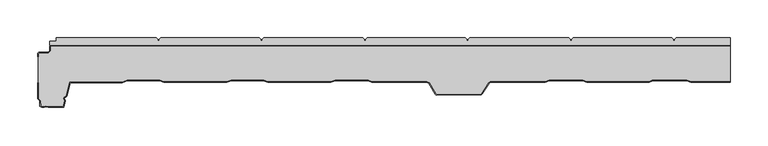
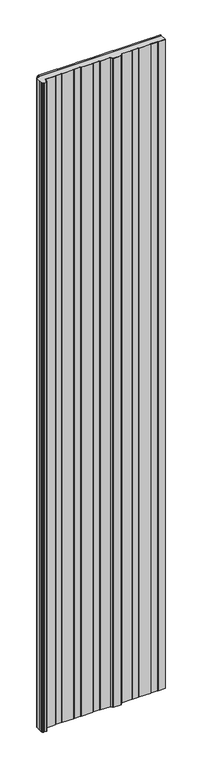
"""IFC4 building model written with IfcOpenShell, lengths in millimetres: plate geometry, Paneles-Sándwich-Madera_PAPUR-AC_Curtain-Panel : PAPUR AC 50/10."""

from ifc_helpers import new_model, si_unit, origin, origin_with_axes, place, context, project, spatial, polyline, outline, extrude, source, transform, mapped, element, save


def plate_9c762072(model_context):
    return source(origin(), model_context, "Body", "SweptSolid", [
        extrude(outline(polyline([(-304.8923076, 8.0070037), (-302.9037044, 10.0073737), (-172.8159298, 10.0073737), (-170.8198896, 8.0070037), (-170.8198896, 6.0196231), (-168.8151898, 6.0196231), (-168.8151898, 8.0070037), (-166.8234794, 10.0073737), (-36.0114048, 10.0073737), (-34.028354, 8.0070037), (-34.028354, 6.0196231), (-32.0236542, 6.0196231), (-32.0236542, 8.0070037), (-30.027614, 10.0073737), (99.3209865, 10.0073737), (101.3083671, 8.0070037), (101.3083671, 6.0196231), (103.3044073, 6.0196231), (103.3044073, 8.0070037), (105.3047773, 10.0073737), (236.7230247, 10.0073737), (238.7147351, 8.0070037), (238.7147351, 6.0196231), (240.7107753, 6.0196231), (240.7107753, 8.0070037), (242.7111453, 10.0073737), (372.9386962, 10.0073737), (374.9390662, 8.0070037), (374.9390662, 6.0196231), (376.9351064, 6.0196231), (376.9351064, 8.0070037), (378.9311466, 10.0073737), (450.0, 10.0073737), (450.0, 0.0), (-449.601171, 0.0), (-449.601171, 5.5984381), (-441.266524, 5.5984381), (-441.266524, 10.0073737), (-308.8887178, 10.0073737), (-306.8926776, 8.0070037), (-306.8926776, 6.0196231), (-304.8923076, 6.0196231), (-304.8923076, 8.0070037)])), origin_with_axes(), (0.0, 0.0, 1.0), 5000.0),
        extrude(outline(polyline([(-465.6618356, -10.4348305), (-464.1420739, -9.1055803), (-452.1008857, -8.9930054), (-449.9316533, -7.001295), (-449.9922705, -1.1690474), (-448.9531173, 0.0), (450.0, 0.0), (450.0, -0.8), (-448.5938644, -0.8), (-449.1891031, -1.4696435), (-449.1279914, -7.3494661), (-451.7861577, -9.7900979), (-463.8383716, -9.9027759), (-464.8585217, -10.795044), (-464.8185043, -15.1889566), (-465.6185375, -15.1889566), (-465.6618356, -10.4348305)])), origin_with_axes(), (0.0, 0.0, 1.0), 5000.0),
        extrude(outline(polyline([(260.2961713, -49.080732), (255.0700964, -46.8595419), (210.914743, -46.8595419), (205.4418692, -49.080732), (132.9522706, -49.080732), (131.4498282, -50.0159699), (122.1450768, -64.1874223), (121.0669553, -65.2871929), (61.5970809, -65.7721311), (59.7092859, -64.4602001), (51.1406014, -50.2974073), (48.4301433, -49.080732), (-24.2066687, -49.080732), (-28.6057508, -46.8595419), (-72.432039, -46.8595419), (-78.2426376, -49.080732), (-161.7689096, -49.080732), (-167.3283795, -46.8595419), (-209.6738743, -46.8595419), (-215.8568362, -49.080732), (-299.3138314, -49.080732), (-304.2931073, -46.8595419), (-347.2231259, -46.8595419), (-353.6788654, -49.5570106), (-422.9773976, -49.6955644), (-427.4977143, -67.4131272), (-428.6234636, -68.5994938), (-430.0999272, -69.3355607), (-430.4116732, -70.262139), (-429.4850948, -72.4227118), (-429.4850948, -73.6653659), (-431.6372836, -82.0045707), (-452.0433799, -82.0045707), (-454.8231149, -81.0779924), (-457.2997634, -82.0045707), (-460.7029903, -82.0045707), (-462.8635631, -80.4025428), (-462.9285102, -73.2756835), (-465.6476279, -70.6041937), (-465.6, -49.57), (-464.7999979, -49.57), (-464.8468678, -70.2694216), (-462.1315619, -72.9371664), (-462.0672248, -79.9970874), (-460.438754, -81.2045707), (-457.4445144, -81.2045707), (-454.8384953, -80.2295916), (-451.9135578, -81.2045707), (-432.2570317, -81.2045707), (-430.2850948, -73.5637976), (-430.2850948, -72.5870188), (-431.2673442, -70.2966335), (-430.7527365, -68.767105), (-429.1066634, -67.946482), (-428.2213945, -67.0135448), (-423.5992353, -48.896806), (-353.8400488, -48.7573313), (-347.3835418, -46.0595419), (-304.1227627, -46.0595419), (-299.1434867, -48.280732), (-215.9961744, -48.280732), (-209.8132126, -46.0595419), (-167.1744807, -46.0595419), (-161.6150108, -48.280732), (-78.390332, -48.280732), (-72.5797335, -46.0595419), (-28.4152363, -46.0595419), (-24.0161542, -48.280732), (48.6014618, -48.280732), (51.6958915, -49.6697651), (60.3056326, -63.9004185), (61.8448216, -64.9700843), (120.728235, -64.4899283), (121.5191698, -63.6831114), (130.8776723, -49.4297941), (132.7236193, -48.280732), (205.2857129, -48.280732), (210.7585866, -46.0595419), (255.2330509, -46.0595419), (260.4591258, -48.280732), (342.801635, -48.280732), (347.2274638, -46.0595419), (392.6117194, -46.0595419), (398.2231469, -48.280732), (450.0, -48.280732), (450.0, -49.080732), (398.0705727, -49.080732), (392.4591451, -46.8595419), (347.4169495, -46.8595419), (342.9911208, -49.080732), (260.2961713, -49.080732)])), origin_with_axes(), (0.0, 0.0, 1.0), 5000.0),
        extrude(outline(polyline([(398.2211683, -48.2761613), (392.6097408, -46.0549712), (347.2254852, -46.0549712), (342.7996564, -48.2761613), (260.4571472, -48.2761613), (255.2310723, -46.0549712), (210.756608, -46.0549712), (205.2837343, -48.2761613), (132.7216407, -48.2761613), (130.8756937, -49.4252234), (121.5171912, -63.6785406), (120.7262564, -64.4853576), (61.842843, -64.9655136), (60.303654, -63.8958478), (51.6939129, -49.6651944), (48.5994832, -48.2761613), (-24.0181328, -48.2761613), (-28.4172149, -46.0549712), (-72.5817121, -46.0549712), (-78.3923106, -48.2761613), (-161.6169894, -48.2761613), (-167.1764593, -46.0549712), (-209.8151912, -46.0549712), (-215.998153, -48.2761613), (-299.1454653, -48.2761613), (-304.1247413, -46.0549712), (-347.3855204, -46.0549712), (-353.8420274, -48.7527605), (-423.6012139, -48.8922353), (-428.2233731, -67.0089741), (-429.108642, -67.9419113), (-430.7547151, -68.7625342), (-431.2693228, -70.2920628), (-430.2870734, -72.5824481), (-430.2870734, -73.5592269), (-432.2590104, -81.2), (-451.9155364, -81.2), (-454.8404739, -80.2250208), (-457.446493, -81.2), (-460.4407326, -81.2), (-462.0692034, -79.9925166), (-462.1335405, -72.9325956), (-464.8488464, -70.2648508), (-464.8019766, -50.0), (-464.8432618, -10.795044), (-463.8231116, -9.9027759), (-451.7708977, -9.7900979), (-449.1127314, -7.3494661), (-449.1738431, -1.4696435), (-448.5786045, -0.8), (450.0, -0.8), (450.0, -48.2761613), (398.2211683, -48.2761613)])), origin_with_axes(), (0.0, 0.0, 1.0), 5000.0),
    ])


if __name__ == "__main__":
    model = new_model("IFC4")
    model_context = context("Model", 3, world=origin())
    ifc_project = project(units=[si_unit("LENGTHUNIT", "METRE", prefix="MILLI")], contexts=[model_context])
    site = spatial("IfcSite", under=ifc_project)
    building = spatial("IfcBuilding", under=site)
    placement = place(None, origin())
    plate_shape = plate_9c762072(model_context)
    element("IfcPlate", 1, ObjectType="Paneles-Sándwich-Madera_PAPUR-AC_Curtain-Panel : PAPUR AC 50/10", at=placement, inside=building, context=model_context, shape_type="MappedRepresentation", body=[
        mapped(plate_shape, transform((0.0, 0.0, 0.0), x_axis=(1.0, 0.0, 0.0), y_axis=(0.0, 1.0, 0.0), z_axis=(0.0, 0.0, 1.0))),
    ])
    save(model, "model.ifc")
